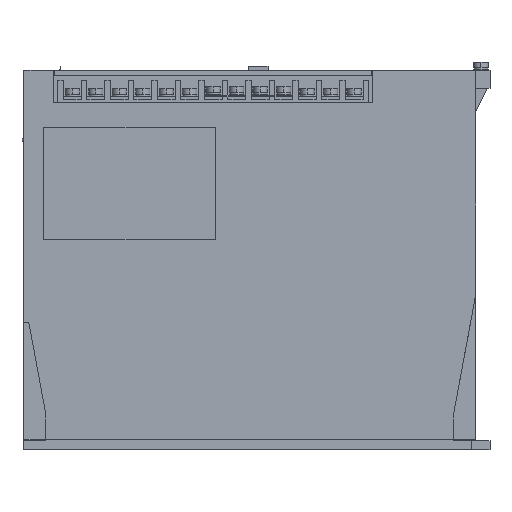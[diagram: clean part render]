
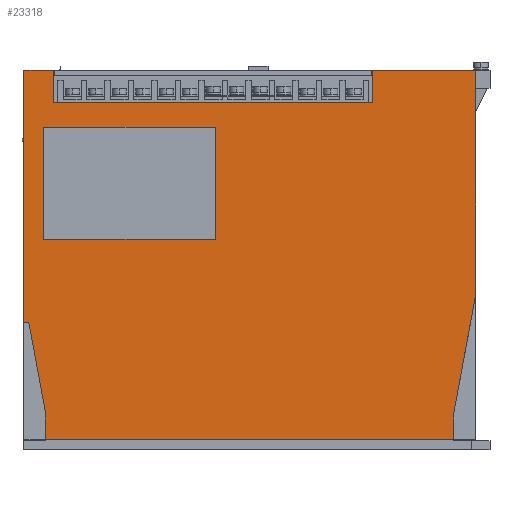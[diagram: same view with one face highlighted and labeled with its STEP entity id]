
A CAD part, left-side view. The second image highlights one B-rep face of the part: STEP entity #23318.
In plain terms, the highlighted planar face has unit normal (-1, 0, 0).
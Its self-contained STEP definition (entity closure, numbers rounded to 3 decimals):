
#577 = EDGE_CURVE ( 'NONE', #20008, #20002, #24361, .T. ) ;
#2974 = VERTEX_POINT ( 'NONE', #29140 ) ;
#2978 = EDGE_CURVE ( 'NONE', #2974, #19940, #29139, .T. ) ;
#3001 = EDGE_CURVE ( 'NONE', #20005, #3003, #29166, .T. ) ;
#3003 = VERTEX_POINT ( 'NONE', #29162 ) ;
#19940 = VERTEX_POINT ( 'NONE', #55578 ) ;
#20002 = VERTEX_POINT ( 'NONE', #55659 ) ;
#20004 = EDGE_CURVE ( 'NONE', #20002, #20005, #55658, .T. ) ;
#20005 = VERTEX_POINT ( 'NONE', #55654 ) ;
#20007 = EDGE_CURVE ( 'NONE', #20008, #19940, #55653, .T. ) ;
#20008 = VERTEX_POINT ( 'NONE', #55709 ) ;
#20731 = VERTEX_POINT ( 'NONE', #56954 ) ;
#20733 = EDGE_CURVE ( 'NONE', #2974, #20731, #56953, .T. ) ;
#23261 = EDGE_CURVE ( 'NONE', #3003, #23262, #60772, .T. ) ;
#23262 = VERTEX_POINT ( 'NONE', #61345 ) ;
#23304 = VERTEX_POINT ( 'NONE', #61395 ) ;
#23306 = EDGE_CURVE ( 'NONE', #23307, #23304, #61394, .T. ) ;
#23307 = VERTEX_POINT ( 'NONE', #61390 ) ;
#23318 = ADVANCED_FACE ( 'NONE', ( #61435, #61434 ), #61433, .F. ) ;
#23319 = EDGE_LOOP ( 'NONE', ( #23320, #23321, #23322, #23386, #23387, #23390, #23392, #23393, #23395, #23396, #23372, #23373, #23374 ) ) ;
#23320 = ORIENTED_EDGE ( 'NONE', *, *, #577, .F. ) ;
#23321 = ORIENTED_EDGE ( 'NONE', *, *, #20007, .T. ) ;
#23322 = ORIENTED_EDGE ( 'NONE', *, *, #2978, .F. ) ;
#23325 = VERTEX_POINT ( 'NONE', #61424 ) ;
#23327 = EDGE_CURVE ( 'NONE', #23325, #23328, #61423, .T. ) ;
#23328 = VERTEX_POINT ( 'NONE', #61419 ) ;
#23357 = ORIENTED_EDGE ( 'NONE', *, *, #23358, .F. ) ;
#23358 = EDGE_CURVE ( 'NONE', #23379, #23385, #61514, .T. ) ;
#23371 = EDGE_CURVE ( 'NONE', #23325, #23262, #61543, .T. ) ;
#23372 = ORIENTED_EDGE ( 'NONE', *, *, #23261, .F. ) ;
#23373 = ORIENTED_EDGE ( 'NONE', *, *, #3001, .F. ) ;
#23374 = ORIENTED_EDGE ( 'NONE', *, *, #20004, .F. ) ;
#23375 = EDGE_LOOP ( 'NONE', ( #23376, #23380, #23383, #23357 ) ) ;
#23376 = ORIENTED_EDGE ( 'NONE', *, *, #23377, .F. ) ;
#23377 = EDGE_CURVE ( 'NONE', #23378, #23379, #61539, .T. ) ;
#23378 = VERTEX_POINT ( 'NONE', #61535 ) ;
#23379 = VERTEX_POINT ( 'NONE', #61534 ) ;
#23380 = ORIENTED_EDGE ( 'NONE', *, *, #23381, .F. ) ;
#23381 = EDGE_CURVE ( 'NONE', #23382, #23378, #61533, .T. ) ;
#23382 = VERTEX_POINT ( 'NONE', #61529 ) ;
#23383 = ORIENTED_EDGE ( 'NONE', *, *, #23384, .F. ) ;
#23384 = EDGE_CURVE ( 'NONE', #23385, #23382, #61528, .T. ) ;
#23385 = VERTEX_POINT ( 'NONE', #61524 ) ;
#23386 = ORIENTED_EDGE ( 'NONE', *, *, #20733, .T. ) ;
#23387 = ORIENTED_EDGE ( 'NONE', *, *, #23388, .T. ) ;
#23388 = EDGE_CURVE ( 'NONE', #20731, #23389, #61523, .T. ) ;
#23389 = VERTEX_POINT ( 'NONE', #61519 ) ;
#23390 = ORIENTED_EDGE ( 'NONE', *, *, #23391, .F. ) ;
#23391 = EDGE_CURVE ( 'NONE', #23307, #23389, #61518, .T. ) ;
#23392 = ORIENTED_EDGE ( 'NONE', *, *, #23306, .T. ) ;
#23393 = ORIENTED_EDGE ( 'NONE', *, *, #23394, .T. ) ;
#23394 = EDGE_CURVE ( 'NONE', #23304, #23328, #61574, .T. ) ;
#23395 = ORIENTED_EDGE ( 'NONE', *, *, #23327, .F. ) ;
#23396 = ORIENTED_EDGE ( 'NONE', *, *, #23371, .T. ) ;
#24359 = VECTOR ( 'NONE', #24623, 1000. ) ;
#24360 = CARTESIAN_POINT ( 'NONE',  ( -105., -10.5, 192.2 ) ) ;
#24361 = LINE ( 'NONE', #24360, #24359 ) ;
#24623 = DIRECTION ( 'NONE',  ( 0., -1., 0. ) ) ;
#29136 = DIRECTION ( 'NONE',  ( 0., -1., 0. ) ) ;
#29137 = VECTOR ( 'NONE', #29136, 1000. ) ;
#29138 = CARTESIAN_POINT ( 'NONE',  ( -105., 6., 210. ) ) ;
#29139 = LINE ( 'NONE', #29138, #29137 ) ;
#29140 = CARTESIAN_POINT ( 'NONE',  ( -105., 6., 210. ) ) ;
#29162 = CARTESIAN_POINT ( 'NONE',  ( -105., -244., 210. ) ) ;
#29163 = DIRECTION ( 'NONE',  ( 0., -1., 0. ) ) ;
#29164 = VECTOR ( 'NONE', #29163, 1000. ) ;
#29165 = CARTESIAN_POINT ( 'NONE',  ( -105., 6., 210. ) ) ;
#29166 = LINE ( 'NONE', #29165, #29164 ) ;
#53622 = VECTOR ( 'NONE', #61281, 1000. ) ;
#55578 = CARTESIAN_POINT ( 'NONE',  ( -105., -10.5, 210. ) ) ;
#55650 = DIRECTION ( 'NONE',  ( 0., 0., 1. ) ) ;
#55651 = VECTOR ( 'NONE', #55650, 1000. ) ;
#55652 = CARTESIAN_POINT ( 'NONE',  ( -105., -10.5, 192.2 ) ) ;
#55653 = LINE ( 'NONE', #55652, #55651 ) ;
#55654 = CARTESIAN_POINT ( 'NONE',  ( -105., -186.7, 210. ) ) ;
#55655 = DIRECTION ( 'NONE',  ( 0., 0., 1. ) ) ;
#55656 = VECTOR ( 'NONE', #55655, 1000. ) ;
#55657 = CARTESIAN_POINT ( 'NONE',  ( -105., -186.7, 192.2 ) ) ;
#55658 = LINE ( 'NONE', #55657, #55656 ) ;
#55659 = CARTESIAN_POINT ( 'NONE',  ( -105., -186.7, 192.2 ) ) ;
#55709 = CARTESIAN_POINT ( 'NONE',  ( -105., -10.5, 192.2 ) ) ;
#56950 = DIRECTION ( 'NONE',  ( 0., 0., -1. ) ) ;
#56951 = VECTOR ( 'NONE', #56950, 1000. ) ;
#56952 = CARTESIAN_POINT ( 'NONE',  ( -105., 6., 467.13 ) ) ;
#56953 = LINE ( 'NONE', #56952, #56951 ) ;
#56954 = CARTESIAN_POINT ( 'NONE',  ( -105., 6., 70.5 ) ) ;
#60771 = CARTESIAN_POINT ( 'NONE',  ( -105., -244., 467.13 ) ) ;
#60772 = LINE ( 'NONE', #60771, #53622 ) ;
#61281 = DIRECTION ( 'NONE',  ( 0., 0., -1. ) ) ;
#61345 = CARTESIAN_POINT ( 'NONE',  ( -105., -244., 85.5 ) ) ;
#61390 = CARTESIAN_POINT ( 'NONE',  ( -105., -6., 20.5 ) ) ;
#61391 = DIRECTION ( 'NONE',  ( 0., 0., -1. ) ) ;
#61392 = VECTOR ( 'NONE', #61391, 1000. ) ;
#61393 = CARTESIAN_POINT ( 'NONE',  ( -105., -6., 20.5 ) ) ;
#61394 = LINE ( 'NONE', #61393, #61392 ) ;
#61395 = CARTESIAN_POINT ( 'NONE',  ( -105., -6., 5.7 ) ) ;
#61419 = CARTESIAN_POINT ( 'NONE',  ( -105., -232., 5.7 ) ) ;
#61420 = DIRECTION ( 'NONE',  ( 0., 0., -1. ) ) ;
#61421 = VECTOR ( 'NONE', #61420, 1000. ) ;
#61422 = CARTESIAN_POINT ( 'NONE',  ( -105., -232., 20.5 ) ) ;
#61423 = LINE ( 'NONE', #61422, #61421 ) ;
#61424 = CARTESIAN_POINT ( 'NONE',  ( -105., -232., 20.5 ) ) ;
#61429 = DIRECTION ( 'NONE',  ( 0., 0., -1. ) ) ;
#61430 = DIRECTION ( 'NONE',  ( 1., 0., 0. ) ) ;
#61431 = CARTESIAN_POINT ( 'NONE',  ( -105., 6., 483.13 ) ) ;
#61432 = AXIS2_PLACEMENT_3D ( 'NONE', #61431, #61430, #61429 ) ;
#61433 = PLANE ( 'NONE',  #61432 ) ;
#61434 = FACE_BOUND ( 'NONE', #23375, .T. ) ;
#61435 = FACE_OUTER_BOUND ( 'NONE', #23319, .T. ) ;
#61511 = DIRECTION ( 'NONE',  ( 0., 0., 1. ) ) ;
#61512 = VECTOR ( 'NONE', #61511, 1000. ) ;
#61513 = CARTESIAN_POINT ( 'NONE',  ( -105., -100., 116.5 ) ) ;
#61514 = LINE ( 'NONE', #61513, #61512 ) ;
#61515 = DIRECTION ( 'NONE',  ( 0., 0.182, 0.983 ) ) ;
#61516 = VECTOR ( 'NONE', #61515, 1000. ) ;
#61517 = CARTESIAN_POINT ( 'NONE',  ( -105., -6., 20.5 ) ) ;
#61518 = LINE ( 'NONE', #61517, #61516 ) ;
#61519 = CARTESIAN_POINT ( 'NONE',  ( -105., 3.231, 70.5 ) ) ;
#61520 = DIRECTION ( 'NONE',  ( 0., -1., 0. ) ) ;
#61521 = VECTOR ( 'NONE', #61520, 1000. ) ;
#61522 = CARTESIAN_POINT ( 'NONE',  ( -105., 6., 70.5 ) ) ;
#61523 = LINE ( 'NONE', #61522, #61521 ) ;
#61524 = CARTESIAN_POINT ( 'NONE',  ( -105., -100., 178.5 ) ) ;
#61525 = DIRECTION ( 'NONE',  ( 0., 1., 0. ) ) ;
#61526 = VECTOR ( 'NONE', #61525, 1000. ) ;
#61527 = CARTESIAN_POINT ( 'NONE',  ( -105., -5., 178.5 ) ) ;
#61528 = LINE ( 'NONE', #61527, #61526 ) ;
#61529 = CARTESIAN_POINT ( 'NONE',  ( -105., -5., 178.5 ) ) ;
#61530 = DIRECTION ( 'NONE',  ( 0., 0., -1. ) ) ;
#61531 = VECTOR ( 'NONE', #61530, 1000. ) ;
#61532 = CARTESIAN_POINT ( 'NONE',  ( -105., -5., 116.5 ) ) ;
#61533 = LINE ( 'NONE', #61532, #61531 ) ;
#61534 = CARTESIAN_POINT ( 'NONE',  ( -105., -100., 116.5 ) ) ;
#61535 = CARTESIAN_POINT ( 'NONE',  ( -105., -5., 116.5 ) ) ;
#61536 = DIRECTION ( 'NONE',  ( 0., -1., 0. ) ) ;
#61537 = VECTOR ( 'NONE', #61536, 1000. ) ;
#61538 = CARTESIAN_POINT ( 'NONE',  ( -105., -5., 116.5 ) ) ;
#61539 = LINE ( 'NONE', #61538, #61537 ) ;
#61540 = DIRECTION ( 'NONE',  ( 0., -0.182, 0.983 ) ) ;
#61541 = VECTOR ( 'NONE', #61540, 1000. ) ;
#61542 = CARTESIAN_POINT ( 'NONE',  ( -105., -232., 20.5 ) ) ;
#61543 = LINE ( 'NONE', #61542, #61541 ) ;
#61571 = DIRECTION ( 'NONE',  ( 0., -1., 0. ) ) ;
#61572 = VECTOR ( 'NONE', #61571, 1000. ) ;
#61573 = CARTESIAN_POINT ( 'NONE',  ( -105., -6., 5.7 ) ) ;
#61574 = LINE ( 'NONE', #61573, #61572 ) ;
